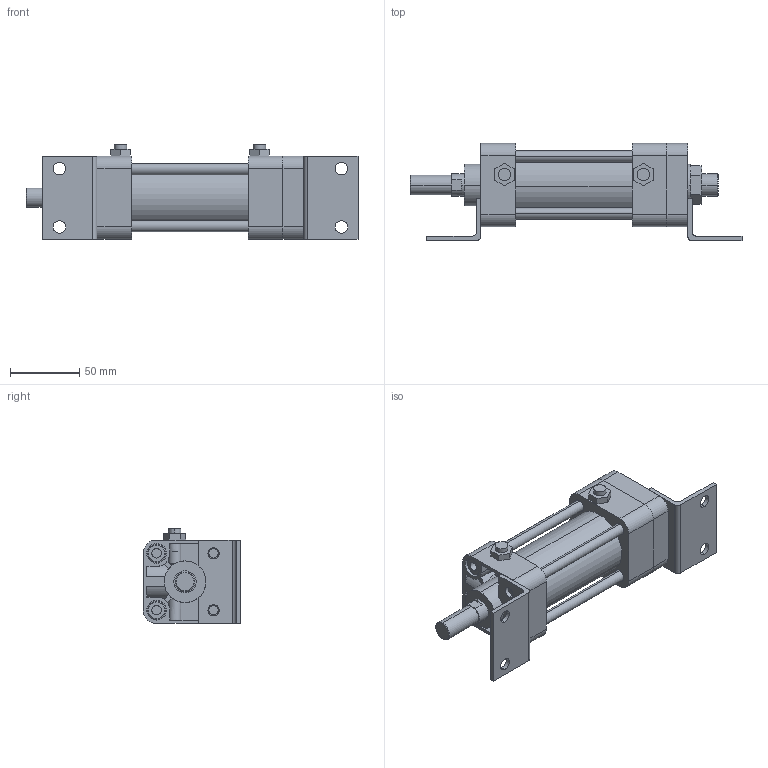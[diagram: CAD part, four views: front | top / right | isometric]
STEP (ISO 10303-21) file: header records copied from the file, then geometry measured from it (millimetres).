
FILE_DESCRIPTION (( 'STEP AP203' ), '1' );
FILE_NAME ('KGA2-40#-50-L.STEP', '2016-04-14T07:11:55', ( '' ), ( '' ), 'SwSTEP 2.0', 'SolidWorks 2014', '' );
FILE_SCHEMA (( 'CONFIG_CONTROL_DESIGN' ));
Length unit declared in the file: millimetre
Products named in the file (8): KGA2-40-After; KGA2-40#-50-L; KGLH2-40-50; K-40-L; KG2-40-After
Assembly tree (18 placements, depth 2):
  KGA2-40#-50-L
    KG2-40-After
    KGLH2-40-50
    (unnamed)
    (unnamed)  x4
    (unnamed)  x8
    K-40-L  x2
    KGA2-40-After
Bounding box: 239 x 70 x 68.3 mm (x, y, z)
Volume: 385150.3 mm3; surface area: 113855.2 mm2
Topology: 18 solids, 23 shells, 408 faces, 959 edges, 615 vertices
Faces by surface type: plane 174, cylinder 168, torus 38, cone 28
Entity records: 10315 total; most frequent: CARTESIAN_POINT 2034, DIRECTION 1557, ORIENTED_EDGE 1430, EDGE_CURVE 715, AXIS2_PLACEMENT_3D 585, VERTEX_POINT 469, LINE 387, VECTOR 387
